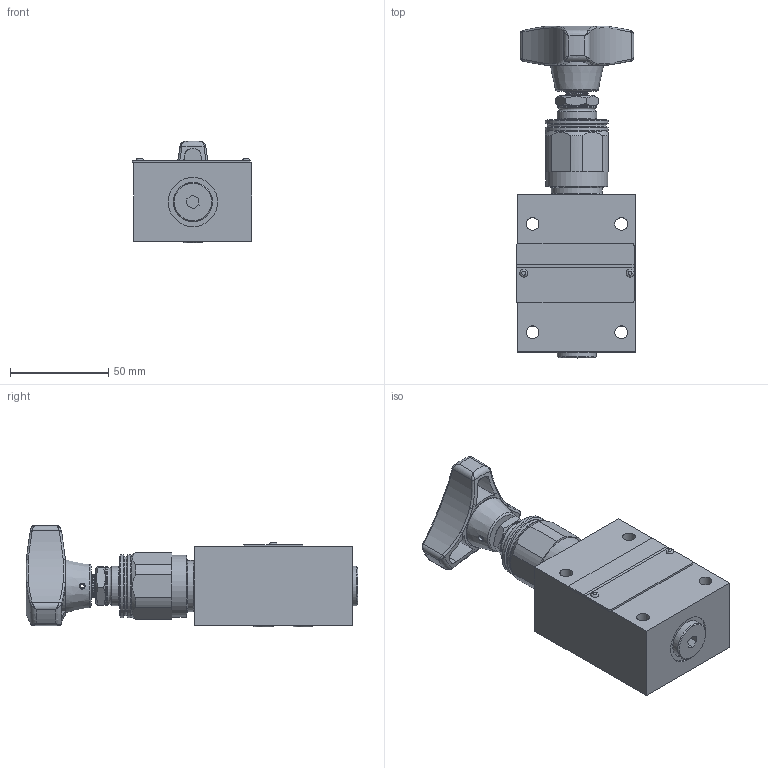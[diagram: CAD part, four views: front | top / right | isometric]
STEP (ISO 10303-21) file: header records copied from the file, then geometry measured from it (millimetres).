
FILE_DESCRIPTION(/* description */ (''),/* implementation_level */ '2;1');
FILE_NAME(/* name */ 'DBDH6P-1XJ直动型板式溢流阀.prt.stp',/* time_stamp */ '2022-03-30T20:13:39+08:00',/* author */ (''),/* organization */ (''),/* preprocessor_version */ 'ST-DEVELOPER v16.7',/* originating_system */ 'SIEMENS PLM Software NX 12.0',/* authorisation */ '');
FILE_SCHEMA (('AUTOMOTIVE_DESIGN { 1 0 10303 214 3 1 1 1 }'));
Length unit declared in the file: millimetre
Products named in the file (1): DBDH6P-1XJ直动型板式溢流阀
Bounding box: 60.9 x 168.5 x 51.72 mm (x, y, z)
Volume: 277229.5 mm3; surface area: 70335.3 mm2
Topology: 27 solids, 28 shells, 611 faces, 1434 edges, 876 vertices
Faces by surface type: plane 292, cylinder 150, bspline 64, cone 58, torus 38, extrusion 8, sphere 1
Full cylindrical faces by diameter (mm): 1 x2, 1.8 x2, 1.9 x2, 2 x3, 2.5 x1, 3 x6, 3.1 x2, 3.3 x1, 4.4 x2, 4.7 x2, 4.709 x1, 5.1 x4, 5.209 x1, 5.5 x1, 6 x3, 6.5 x4, 6.8 x1, 7.8 x2, 10 x6, 11 x3, 15 x2, 16 x1, 16.5 x1, 17.28 x1, 19.7 x1, 20 x2, 20.3 x1, 20.4 x1, 20.48 x2, 21 x1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
Entity records: 31559 total; most frequent: CARTESIAN_POINT 19257, ORIENTED_EDGE 2342, DIRECTION 2328, EDGE_CURVE 1171, AXIS2_PLACEMENT_3D 957, EDGE_LOOP 818, VERTEX_POINT 809, ADVANCED_FACE 602
